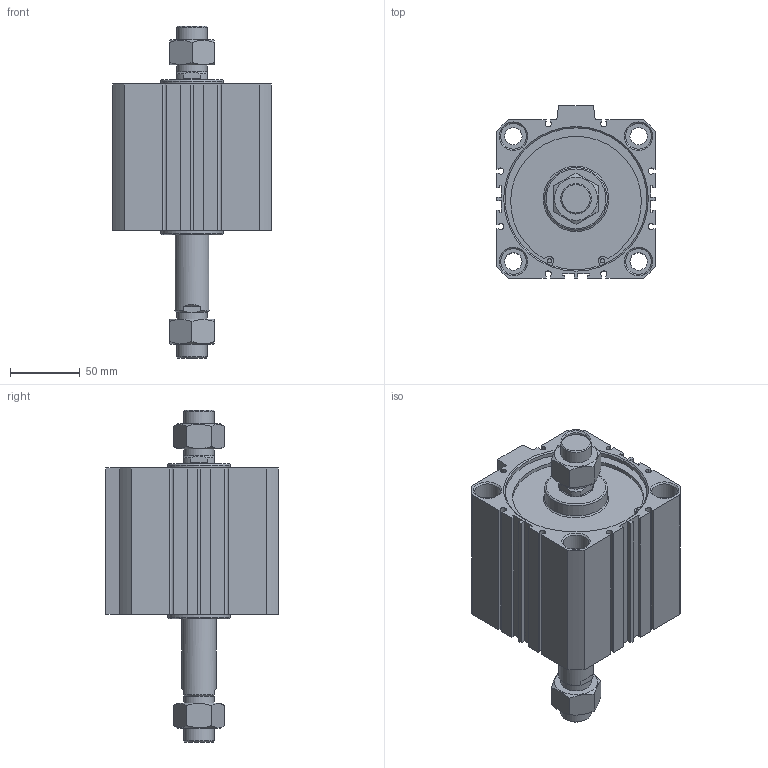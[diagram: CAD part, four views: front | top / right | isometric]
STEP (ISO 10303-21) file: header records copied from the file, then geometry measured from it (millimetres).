
FILE_DESCRIPTION((''),'2;1');
FILE_NAME('I:\3D電子目錄\氣缸\JDD\JDD-BS\JDD100-BS\JDD100x50-BS.stp','2007-02-28T08:52:01',('662F206'),(''),'Autodesk Inventor 10','Autodesk Inventor 10','');
FILE_SCHEMA(('AUTOMOTIVE_DESIGN { 1 0 10303 214 1 1 1 1 }'));
Length unit declared in the file: millimetre
Products named in the file (3): JDD100-BS; R 形環 100
Assembly tree (3 placements, depth 2):
  JDD100-BS
    JDD100-BS
    R 形環 100  x2
Bounding box: 114 x 124 x 238.7 mm (x, y, z)
Volume: 1263966.4 mm3; surface area: 140021.1 mm2
Topology: 3 solids, 3 shells, 219 faces, 538 edges, 351 vertices
Faces by surface type: plane 130, cylinder 59, cone 26, bspline 2, torus 2
Full cylindrical faces by diameter (mm): 3.1 x4, 3.5 x2, 12.5 x4, 18.5 x8, 22 x4, 25 x1, 45 x2, 102 x4, 106 x2
Entity records: 5905 total; most frequent: CARTESIAN_POINT 1143, DIRECTION 978, ORIENTED_EDGE 894, EDGE_CURVE 447, AXIS2_PLACEMENT_3D 356, VERTEX_POINT 323, EDGE_LOOP 298, VECTOR 266
